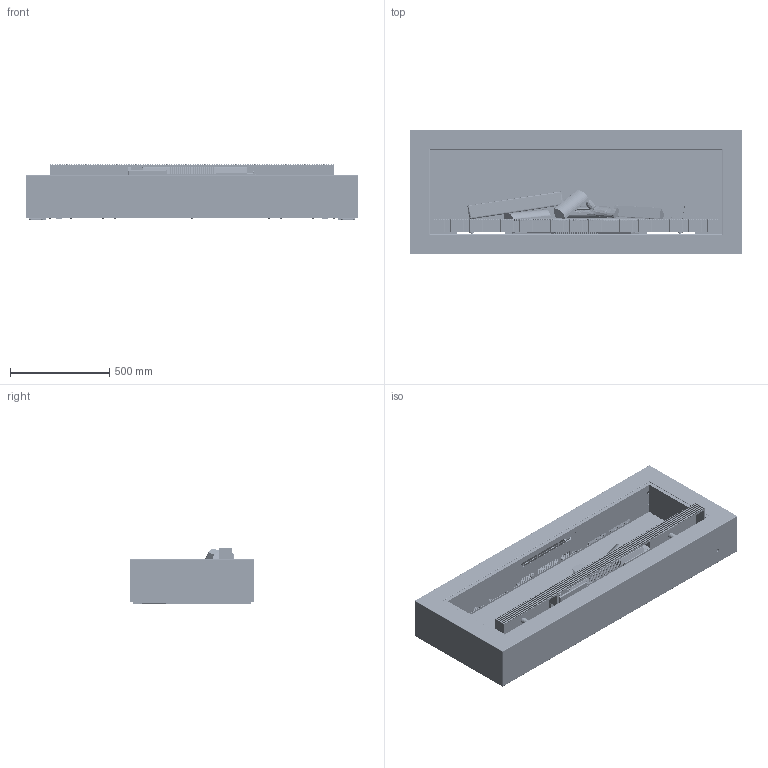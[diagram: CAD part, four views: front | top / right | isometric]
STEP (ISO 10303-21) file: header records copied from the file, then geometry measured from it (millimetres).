
FILE_DESCRIPTION (( 'STEP AP203' ), '1' );
FILE_NAME ('E Series E65 Design Frame.STEP', '2024-03-12T12:54:11', ( '' ), ( '' ), 'SwSTEP 2.0', 'SolidWorks 2020', '' );
FILE_SCHEMA (( 'CONFIG_CONTROL_DESIGN' ));
Length unit declared in the file: millimetre
Products named in the file (88): KF06369; KF04895; KF05909; KF05870; KF05964; KF06605; KF05869; KF04003; KF06112; KF05969_ISO 14579 M6 x 10 - 10N[Galvanized]; KF06148_Built in ; KF01932_Phoenix 3273272; KF05862; KF05923; KF04009; KF06124; KF05883; KF05846; KF05900; KF05849; KF05901; KF05928; KF06364; KF06717_Right - Bend; KF06372; KF06607; KF05845; KF05927; KF05961; KF05914; KF06113; KF06368; KF06083_Built in version; KF06604; KF05924; KF04164; KF05977; KF01931_Phoenix 3273274; KF05934_Built in; KF05932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
Assembly tree (223 placements, depth 6):
  E Series E65 Design Frame
    KF05881_Inschijner
      KF05976
      KF06112
        KF05883
        KF06109
      KF06113
        KF05884
        KF06109
      KF06679  x2
    KF05923
    KF05915  x2
    KF04164  x6
    KF06219
      KF06372
        KF05932
          KF05927
          KF04020  x5
          KF04060  x4
        KF05930  x2
          KF05924
          KF04020
        KF05910
          KF05901
          KF04079  x2
          KF04020  x3
        KF05909
          KF05900
          KF04079  x2
          KF04020  x3
        KF05934_Built in
          KF06148_Built in 
          KF04020  x2
          KF04060  x4
        KF05928
        KF05846  x2
          KF05847
          KF06057
          KF04020
          KF06545
        KF06370
          KF06369
          KF04020
        KF06368
          KF06364
          KF04020
        KF06124
        KF06125
        KF06460  x2
        KF06681
          KF06683_Built in
          KF06684_Built in
          KF06717_Left - Bend 
          KF06717_Right - Bend
      KF05972
        KF05844
          KF05845
          KF04895  x5
        KF05849
      KF05969_ISO 14579 M6 x 10 - 10N[Galvanized]  x2
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Bounding box: 1674 x 627 x 280.5 mm (x, y, z)
Volume: 53297672.4 mm3; surface area: 13969145.5 mm2
Topology: 219 solids, 268 shells, 18101 faces, 47011 edges, 29759 vertices
Faces by surface type: plane 11777, cylinder 4268, cone 1526, bspline 277, torus 189, sphere 64
Entity records: 438369 total; most frequent: CARTESIAN_POINT 107615, ORIENTED_EDGE 67218, DIRECTION 63891, EDGE_CURVE 33609, LINE 25563, VECTOR 25563, VERTEX_POINT 21293, AXIS2_PLACEMENT_3D 19164
